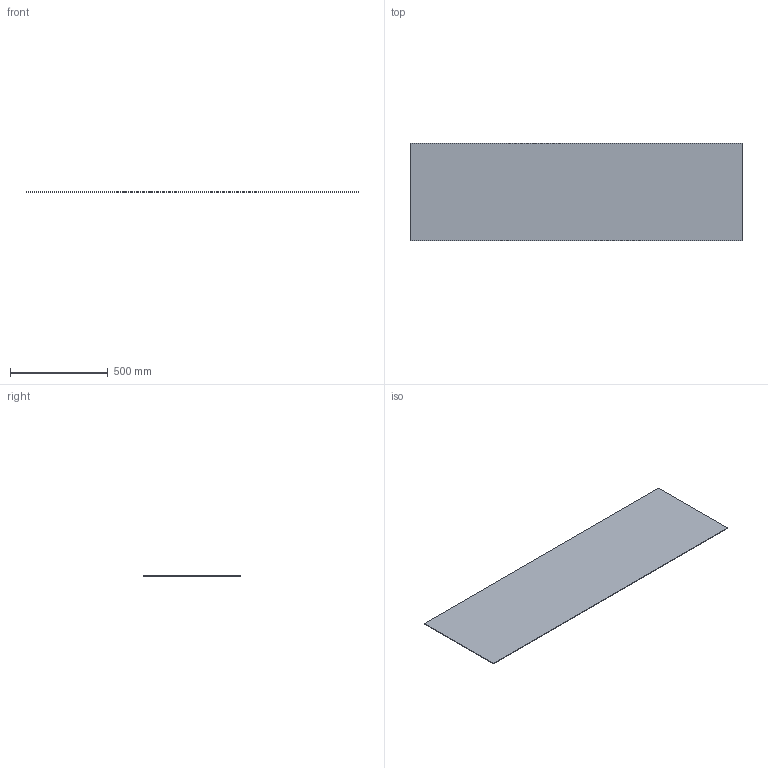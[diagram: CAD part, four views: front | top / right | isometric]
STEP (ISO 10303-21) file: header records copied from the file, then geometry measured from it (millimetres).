
FILE_DESCRIPTION(('Open CASCADE Model'),'2;1');
FILE_NAME('Open CASCADE Shape Model','2026-10-19T10:09:27',('Author'),( 'Open CASCADE'),'Open CASCADE STEP processor 8.0','Open CASCADE 8.0' ,'Unknown');
FILE_SCHEMA(('AUTOMOTIVE_DESIGN { 1 0 10303 214 1 1 1 1 }'));
Length unit declared in the file: millimetre
Products named in the file (1): AC_PROTECCION_INFERIOR_1700x500x3 180
Bounding box: 1700 x 500 x 3 mm (x, y, z)
Volume: 2550000 mm3; surface area: 1713200 mm2
Topology: 1 solids, 1 shells, 6 faces, 12 edges, 8 vertices
Faces by surface type: plane 6
Entity records: 322 total; most frequent: CARTESIAN_POINT 51, DIRECTION 50, LINE 36, VECTOR 36, ORIENTED_EDGE 24, PCURVE 24, DEFINITIONAL_REPRESENTATION 24, EDGE_CURVE 12
